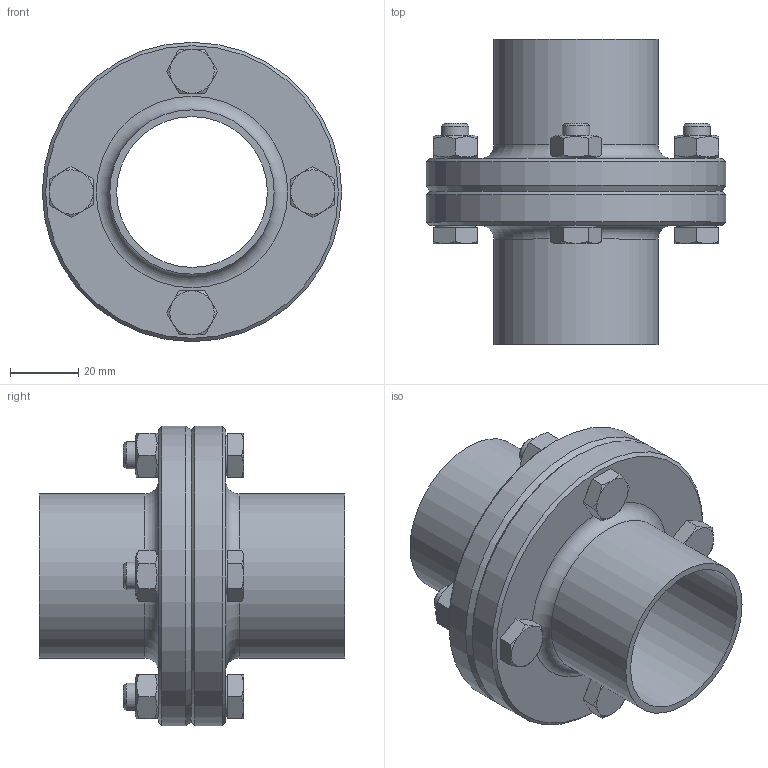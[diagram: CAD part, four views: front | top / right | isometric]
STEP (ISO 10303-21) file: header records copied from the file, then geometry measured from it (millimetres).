
FILE_DESCRIPTION(/* description */ ('DIN11864-2-A_48,3x2_L90_Fl88'),/* implementation_level */ '2;1');
FILE_NAME(/* name */ 'DIN11864-2-A_48,3x2_L90_Fl88.stp',/* time_stamp */ '2015-01-07T13:14:47+01:00',/* author */ ('DOCKWEILER AG'),/* organization */ ('DOCKWEILER AG'),/* preprocessor_version */ 'ST-DEVELOPER v15.6',/* originating_system */ 'Autodesk Inventor 2015',/* authorisation */ '');
FILE_SCHEMA (('CONFIG_CONTROL_DESIGN'));
Length unit declared in the file: millimetre
Products named in the file (6): N0003_007_003_19; N0003_007_004_19; N005_005_002_001_18; ISO 4032 - M8ISO; ISO 4017 - M8 x 30ISO; N0024_002_002
Assembly tree (11 placements, depth 2):
  N0024_002_002
    N0003_007_003_19
    N0003_007_004_19
    N005_005_002_001_18
    ISO 4032 - M8ISO  x4
    ISO 4017 - M8 x 30ISO  x4
Bounding box: 88 x 89.7 x 88 mm (x, y, z)
Volume: 117334.4 mm3; surface area: 57664.1 mm2
Topology: 11 solids, 11 shells, 174 faces, 362 edges, 222 vertices
Faces by surface type: plane 82, cone 52, cylinder 28, torus 12
Full cylindrical faces by diameter (mm): 6.647 x4, 8 x4, 9 x8, 11.63 x4, 44.3 x2, 48.3 x2, 59.9 x1, 60 x1, 88 x2
Entity records: 2080 total; most frequent: DIRECTION 352, CARTESIAN_POINT 352, ORIENTED_EDGE 228, AXIS2_PLACEMENT_3D 167, EDGE_LOOP 151, EDGE_CURVE 114, VERTEX_POINT 95, FACE_OUTER_BOUND 78
